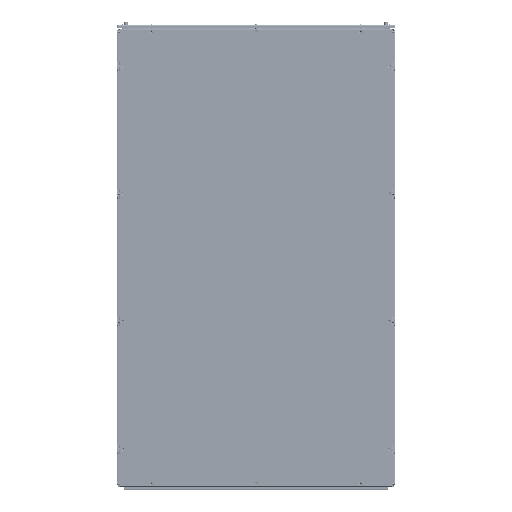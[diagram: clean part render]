
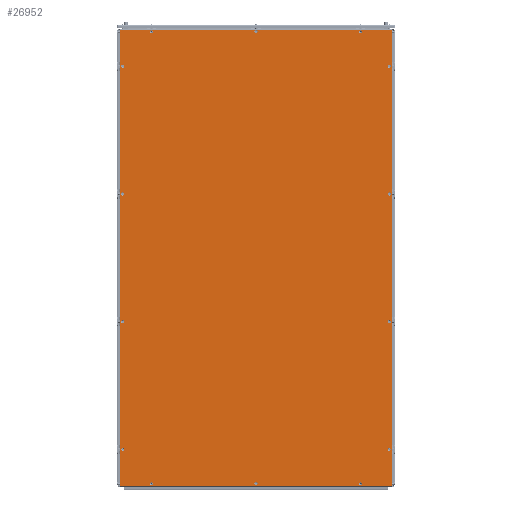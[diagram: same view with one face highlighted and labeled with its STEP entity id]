
A CAD part, left-side view. The second image highlights one B-rep face of the part: STEP entity #26952.
In plain terms, the highlighted planar face has unit normal (-1, 0, 0) as drawn and (1, 0, 0) by its records, which use the part's own axes.
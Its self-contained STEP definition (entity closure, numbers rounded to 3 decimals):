
#26952=ADVANCED_FACE('',(#164029,#164031,#164033,#164035,#164037,#164039,#164041,
#164043,#164045,#164047,#164049,#164051,#164053,#164055,#164057),#164059,.T.);
#164029=FACE_BOUND('',#164030,.T.);
#164030=EDGE_LOOP('',(#388691,#388692,#388693,#388694));
#164031=FACE_BOUND('',#164032,.T.);
#164032=EDGE_LOOP('',(#388695));
#164033=FACE_BOUND('',#164034,.T.);
#164034=EDGE_LOOP('',(#388696));
#164035=FACE_BOUND('',#164036,.T.);
#164036=EDGE_LOOP('',(#388697));
#164037=FACE_BOUND('',#164038,.T.);
#164038=EDGE_LOOP('',(#388698));
#164039=FACE_BOUND('',#164040,.T.);
#164040=EDGE_LOOP('',(#388699));
#164041=FACE_BOUND('',#164042,.T.);
#164042=EDGE_LOOP('',(#388700));
#164043=FACE_BOUND('',#164044,.T.);
#164044=EDGE_LOOP('',(#388701));
#164045=FACE_BOUND('',#164046,.T.);
#164046=EDGE_LOOP('',(#388702));
#164047=FACE_BOUND('',#164048,.T.);
#164048=EDGE_LOOP('',(#388703));
#164049=FACE_BOUND('',#164050,.T.);
#164050=EDGE_LOOP('',(#388704));
#164051=FACE_BOUND('',#164052,.T.);
#164052=EDGE_LOOP('',(#388705));
#164053=FACE_BOUND('',#164054,.T.);
#164054=EDGE_LOOP('',(#388706));
#164055=FACE_BOUND('',#164056,.T.);
#164056=EDGE_LOOP('',(#388707));
#164057=FACE_BOUND('',#164058,.T.);
#164058=EDGE_LOOP('',(#388708));
#164059=PLANE('',#164060);
#164060=AXIS2_PLACEMENT_3D('',#164061,#164062,#164063);
#164061=CARTESIAN_POINT('',(1.5,0.,0.));
#164062=DIRECTION('',(1.,0.,0.));
#164063=DIRECTION('',(0.,1.,0.));
#388691=ORIENTED_EDGE('',*,*,#438024,.T.);
#388692=ORIENTED_EDGE('',*,*,#438030,.T.);
#388693=ORIENTED_EDGE('',*,*,#438028,.T.);
#388694=ORIENTED_EDGE('',*,*,#438026,.T.);
#388695=ORIENTED_EDGE('',*,*,#438045,.T.);
#388696=ORIENTED_EDGE('',*,*,#438046,.T.);
#388697=ORIENTED_EDGE('',*,*,#438047,.T.);
#388698=ORIENTED_EDGE('',*,*,#438048,.T.);
#388699=ORIENTED_EDGE('',*,*,#438049,.T.);
#388700=ORIENTED_EDGE('',*,*,#438050,.T.);
#388701=ORIENTED_EDGE('',*,*,#438051,.T.);
#388702=ORIENTED_EDGE('',*,*,#438052,.T.);
#388703=ORIENTED_EDGE('',*,*,#438053,.T.);
#388704=ORIENTED_EDGE('',*,*,#438054,.T.);
#388705=ORIENTED_EDGE('',*,*,#438055,.T.);
#388706=ORIENTED_EDGE('',*,*,#438056,.T.);
#388707=ORIENTED_EDGE('',*,*,#438057,.T.);
#388708=ORIENTED_EDGE('',*,*,#438058,.T.);
#438024=EDGE_CURVE('',#506364,#506362,#506365,.T.);
#438026=EDGE_CURVE('',#506367,#506364,#506368,.T.);
#438028=EDGE_CURVE('',#506370,#506367,#506371,.T.);
#438030=EDGE_CURVE('',#506362,#506370,#506373,.T.);
#438045=EDGE_CURVE('',#506402,#506402,#506403,.F.);
#438046=EDGE_CURVE('',#506404,#506404,#506405,.F.);
#438047=EDGE_CURVE('',#506406,#506406,#506407,.F.);
#438048=EDGE_CURVE('',#506408,#506408,#506409,.F.);
#438049=EDGE_CURVE('',#506410,#506410,#506411,.F.);
#438050=EDGE_CURVE('',#506412,#506412,#506413,.F.);
#438051=EDGE_CURVE('',#506414,#506414,#506415,.F.);
#438052=EDGE_CURVE('',#506416,#506416,#506417,.F.);
#438053=EDGE_CURVE('',#506418,#506418,#506419,.F.);
#438054=EDGE_CURVE('',#506420,#506420,#506421,.F.);
#438055=EDGE_CURVE('',#506422,#506422,#506423,.F.);
#438056=EDGE_CURVE('',#506424,#506424,#506425,.F.);
#438057=EDGE_CURVE('',#506426,#506426,#506427,.F.);
#438058=EDGE_CURVE('',#506428,#506428,#506429,.T.);
#506362=VERTEX_POINT('',#661353);
#506364=VERTEX_POINT('',#661358);
#506365=LINE('',#661359,#661360);
#506367=VERTEX_POINT('',#661366);
#506368=LINE('',#661367,#661368);
#506370=VERTEX_POINT('',#661374);
#506371=LINE('',#661375,#661376);
#506373=LINE('',#661382,#661383);
#506402=VERTEX_POINT('',#661455);
#506403=CIRCLE('',#661456,6.954);
#506404=VERTEX_POINT('',#661460);
#506405=CIRCLE('',#661461,6.954);
#506406=VERTEX_POINT('',#661465);
#506407=CIRCLE('',#661466,6.954);
#506408=VERTEX_POINT('',#661470);
#506409=CIRCLE('',#661471,6.954);
#506410=VERTEX_POINT('',#661475);
#506411=CIRCLE('',#661476,6.954);
#506412=VERTEX_POINT('',#661480);
#506413=CIRCLE('',#661481,6.954);
#506414=VERTEX_POINT('',#661485);
#506415=CIRCLE('',#661486,6.954);
#506416=VERTEX_POINT('',#661490);
#506417=CIRCLE('',#661491,6.954);
#506418=VERTEX_POINT('',#661495);
#506419=CIRCLE('',#661496,6.954);
#506420=VERTEX_POINT('',#661500);
#506421=CIRCLE('',#661501,6.954);
#506422=VERTEX_POINT('',#661505);
#506423=CIRCLE('',#661506,6.954);
#506424=VERTEX_POINT('',#661510);
#506425=CIRCLE('',#661511,6.954);
#506426=VERTEX_POINT('',#661515);
#506427=CIRCLE('',#661516,6.954);
#506428=VERTEX_POINT('',#661520);
#506429=CIRCLE('',#661521,6.954);
#661353=CARTESIAN_POINT('',(1.5,-583.7,-982.7));
#661358=CARTESIAN_POINT('',(1.5,-583.7,982.7));
#661359=CARTESIAN_POINT('',(1.5,-583.7,982.7));
#661360=VECTOR('',#661361,1.);
#661361=DIRECTION('',(0.,0.,-1.));
#661366=CARTESIAN_POINT('',(1.5,583.7,982.7));
#661367=CARTESIAN_POINT('',(1.5,583.7,982.7));
#661368=VECTOR('',#661369,1.);
#661369=DIRECTION('',(0.,-1.,0.));
#661374=CARTESIAN_POINT('',(1.5,583.7,-982.7));
#661375=CARTESIAN_POINT('',(1.5,583.7,-982.7));
#661376=VECTOR('',#661377,1.);
#661377=DIRECTION('',(0.,0.,1.));
#661382=CARTESIAN_POINT('',(1.5,-583.7,-982.7));
#661383=VECTOR('',#661384,1.);
#661384=DIRECTION('',(0.,1.,0.));
#661455=CARTESIAN_POINT('',(1.5,6.954,-973.5));
#661456=AXIS2_PLACEMENT_3D('',#661457,#661458,#661459);
#661457=CARTESIAN_POINT('',(1.5,0.,-973.5));
#661458=DIRECTION('',(1.,0.,0.));
#661459=DIRECTION('',(0.,1.,0.));
#661460=CARTESIAN_POINT('',(1.5,6.954,973.5));
#661461=AXIS2_PLACEMENT_3D('',#661462,#661463,#661464);
#661462=CARTESIAN_POINT('',(1.5,0.,973.5));
#661463=DIRECTION('',(1.,0.,0.));
#661464=DIRECTION('',(0.,1.,0.));
#661465=CARTESIAN_POINT('',(1.5,456.954,973.5));
#661466=AXIS2_PLACEMENT_3D('',#661467,#661468,#661469);
#661467=CARTESIAN_POINT('',(1.5,450.,973.5));
#661468=DIRECTION('',(1.,0.,0.));
#661469=DIRECTION('',(0.,1.,0.));
#661470=CARTESIAN_POINT('',(1.5,456.954,-973.5));
#661471=AXIS2_PLACEMENT_3D('',#661472,#661473,#661474);
#661472=CARTESIAN_POINT('',(1.5,450.,-973.5));
#661473=DIRECTION('',(1.,0.,0.));
#661474=DIRECTION('',(0.,1.,0.));
#661475=CARTESIAN_POINT('',(1.5,-443.046,973.5));
#661476=AXIS2_PLACEMENT_3D('',#661477,#661478,#661479);
#661477=CARTESIAN_POINT('',(1.5,-450.,973.5));
#661478=DIRECTION('',(1.,0.,0.));
#661479=DIRECTION('',(0.,1.,0.));
#661480=CARTESIAN_POINT('',(1.5,-443.046,-973.5));
#661481=AXIS2_PLACEMENT_3D('',#661482,#661483,#661484);
#661482=CARTESIAN_POINT('',(1.5,-450.,-973.5));
#661483=DIRECTION('',(1.,0.,0.));
#661484=DIRECTION('',(0.,1.,0.));
#661485=CARTESIAN_POINT('',(1.5,580.454,-275.));
#661486=AXIS2_PLACEMENT_3D('',#661487,#661488,#661489);
#661487=CARTESIAN_POINT('',(1.5,573.5,-275.));
#661488=DIRECTION('',(1.,0.,0.));
#661489=DIRECTION('',(0.,1.,0.));
#661490=CARTESIAN_POINT('',(1.5,580.454,275.));
#661491=AXIS2_PLACEMENT_3D('',#661492,#661493,#661494);
#661492=CARTESIAN_POINT('',(1.5,573.5,275.));
#661493=DIRECTION('',(1.,0.,0.));
#661494=DIRECTION('',(0.,1.,0.));
#661495=CARTESIAN_POINT('',(1.5,-566.546,-275.));
#661496=AXIS2_PLACEMENT_3D('',#661497,#661498,#661499);
#661497=CARTESIAN_POINT('',(1.5,-573.5,-275.));
#661498=DIRECTION('',(1.,0.,0.));
#661499=DIRECTION('',(0.,1.,0.));
#661500=CARTESIAN_POINT('',(1.5,-566.546,275.));
#661501=AXIS2_PLACEMENT_3D('',#661502,#661503,#661504);
#661502=CARTESIAN_POINT('',(1.5,-573.5,275.));
#661503=DIRECTION('',(1.,0.,0.));
#661504=DIRECTION('',(0.,1.,0.));
#661505=CARTESIAN_POINT('',(1.5,580.454,825.));
#661506=AXIS2_PLACEMENT_3D('',#661507,#661508,#661509);
#661507=CARTESIAN_POINT('',(1.5,573.5,825.));
#661508=DIRECTION('',(1.,0.,0.));
#661509=DIRECTION('',(0.,1.,0.));
#661510=CARTESIAN_POINT('',(1.5,580.454,-825.));
#661511=AXIS2_PLACEMENT_3D('',#661512,#661513,#661514);
#661512=CARTESIAN_POINT('',(1.5,573.5,-825.));
#661513=DIRECTION('',(1.,0.,0.));
#661514=DIRECTION('',(0.,1.,0.));
#661515=CARTESIAN_POINT('',(1.5,-566.546,-825.));
#661516=AXIS2_PLACEMENT_3D('',#661517,#661518,#661519);
#661517=CARTESIAN_POINT('',(1.5,-573.5,-825.));
#661518=DIRECTION('',(1.,0.,0.));
#661519=DIRECTION('',(0.,1.,0.));
#661520=CARTESIAN_POINT('',(1.5,-566.546,825.));
#661521=AXIS2_PLACEMENT_3D('',#661522,#661523,#661524);
#661522=CARTESIAN_POINT('',(1.5,-573.5,825.));
#661523=DIRECTION('',(-1.,0.,0.));
#661524=DIRECTION('',(0.,1.,0.));
